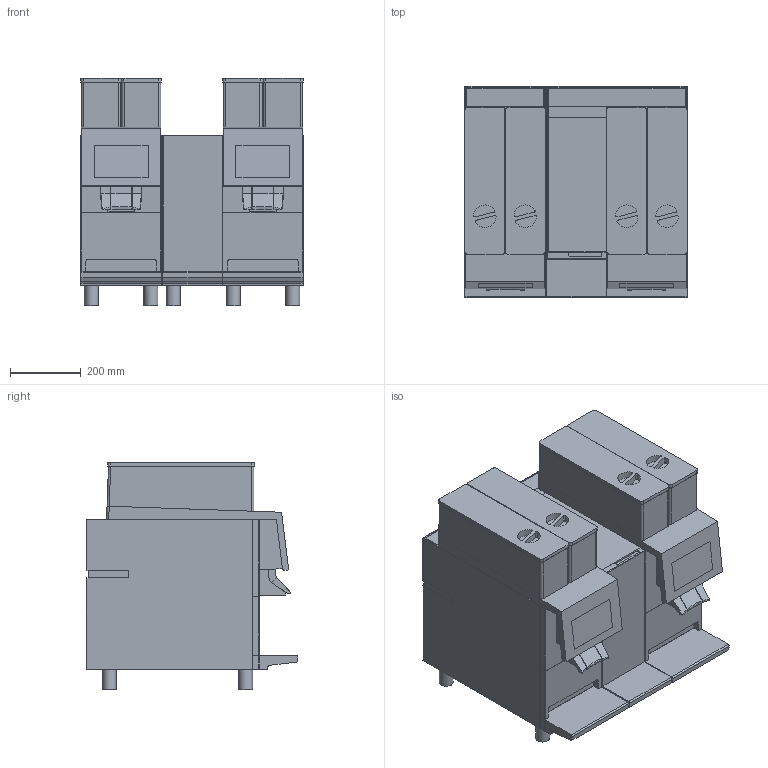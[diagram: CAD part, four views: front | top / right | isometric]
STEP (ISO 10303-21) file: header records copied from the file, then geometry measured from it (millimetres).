
FILE_DESCRIPTION(/* description */ ('Unknown'),/* implementation_level */ '2;1');
FILE_NAME(/* name */ 'HM_BW4c-TwinTower',/* time_stamp */ '2026-08-18T06:29:22+02:00',/* author */ ('Unknown'),/* organization */ ('Unknown'),/* preprocessor_version */ 'ST-DEVELOPER v20',/* originating_system */ 'Solid Edge',/* authorisation */ 'Unknown');
FILE_SCHEMA (('AUTOMOTIVE_DESIGN {1 0 10303 214 3 1 1}'));
Length unit declared in the file: millimetre
Products named in the file (3): HM_BW4c-TwinTower; HM_BW4c-CTM-RS; HM_BW4c-CTM
Assembly tree (2 placements, depth 2):
  HM_BW4c-TwinTower
    HM_BW4c-CTM-RS
    HM_BW4c-CTM
Bounding box: 631.3 x 599.39 x 645.98 mm (x, y, z)
Volume: 167447147.7 mm3; surface area: 3204527.2 mm2
Topology: 2 solids, 2 shells, 543 faces, 1494 edges, 958 vertices
Faces by surface type: plane 393, cylinder 142, sphere 8
Full cylindrical faces by diameter (mm): 40 x10
Entity records: 20876 total; most frequent: CARTESIAN_POINT 2970, ORIENTED_EDGE 2942, DIRECTION 2878, EDGE_CURVE 1471, LINE 1156, VECTOR 1156, VERTEX_POINT 953, AXIS2_PLACEMENT_3D 861
